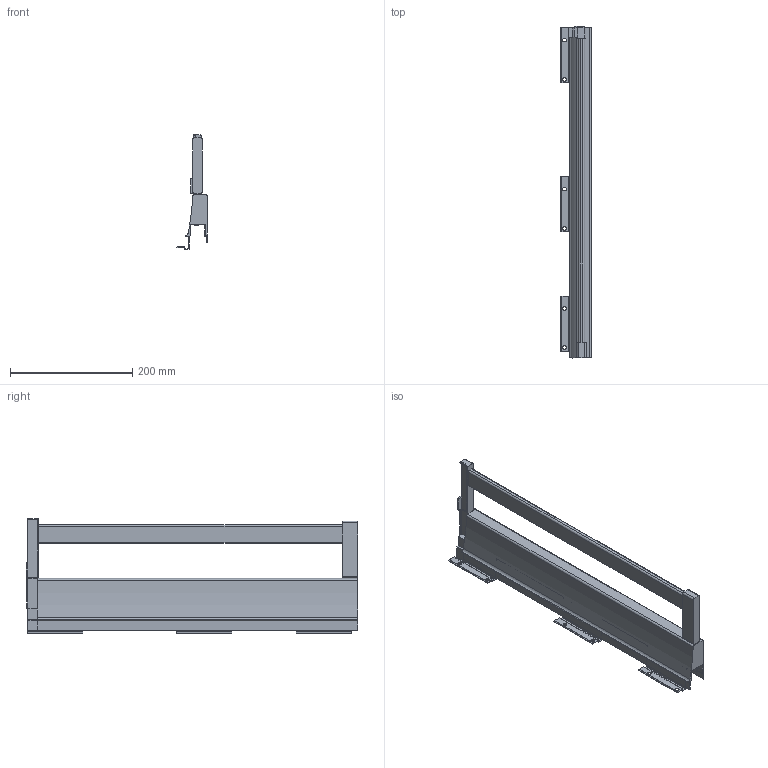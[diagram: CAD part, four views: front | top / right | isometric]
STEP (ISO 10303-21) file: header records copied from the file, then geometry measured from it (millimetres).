
FILE_DESCRIPTION (( 'STEP AP214' ), '1' );
FILE_NAME ('_XP Agantis Dekorseite H95 NL550 RE Rechteckreling.step', '2010-07-08T06:08:14', ( 'grass' ), ( '' ), 'SwSTEP 2.0', 'SolidWorks 2010', '' );
FILE_SCHEMA (( 'AUTOMOTIVE_DESIGN' ));
Length unit declared in the file: millimetre
Products named in the file (1): _XP Agantis Dekorseite H95 NL550 RE Rechteckreling
Bounding box: 50.01 x 542.45 x 187 mm (x, y, z)
Volume: 972808.6 mm3; surface area: 231863.2 mm2
Topology: 2 solids, 2 shells, 166 faces, 477 edges, 312 vertices
Faces by surface type: plane 127, cylinder 39
Entity records: 5455 total; most frequent: CARTESIAN_POINT 956, ORIENTED_EDGE 954, DIRECTION 890, EDGE_CURVE 477, LINE 398, VECTOR 398, VERTEX_POINT 312, AXIS2_PLACEMENT_3D 246
